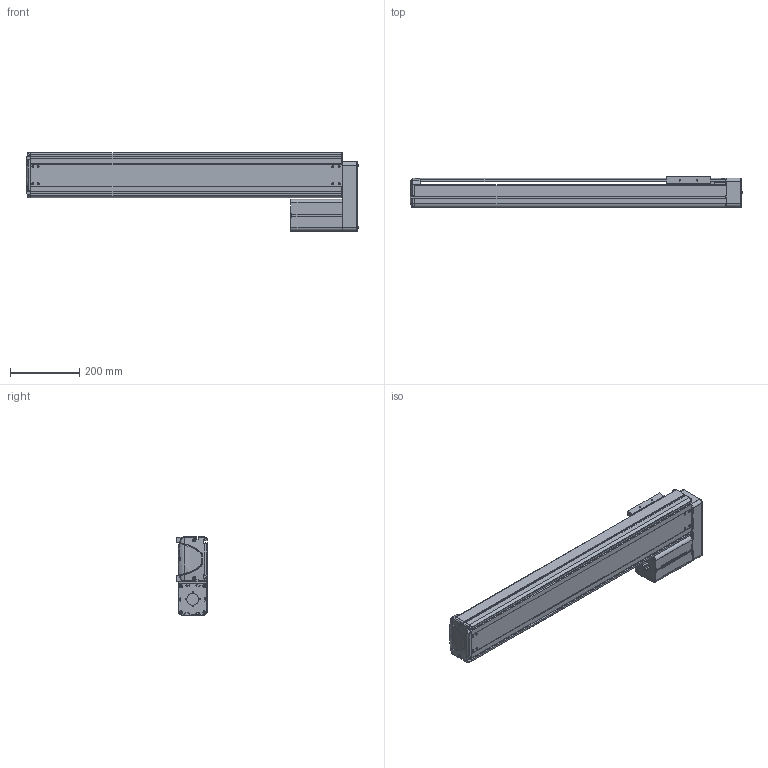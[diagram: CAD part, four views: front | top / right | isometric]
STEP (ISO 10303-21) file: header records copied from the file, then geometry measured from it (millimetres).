
FILE_DESCRIPTION((''),'2;1');
FILE_NAME('BE30E-UL-M_N-70_IGS_PRT','2017-06-17T',(' '),(''),'PRO/ENGINEER BY PARAMETRIC TECHNOLOGY CORPORATION, 2015030','PRO/ENGINEER BY PARAMETRIC TECHNOLOGY CORPORATION, 2015030','');
FILE_SCHEMA(('CONFIG_CONTROL_DESIGN'));
Products named in the file (1): BE30E-UL-M_N-70_IGS_PRT
Bounding box: 961.9 x 89.8 x 227 mm (x, y, z)
Volume: 3225647.9 mm3; surface area: 1404271.5 mm2
Topology: 2 solids, 120 shells, 2010 faces, 5402 edges, 3510 vertices
Faces by surface type: plane 986, cylinder 831, cone 103, torus 38, bspline 28, sphere 24
Entity records: 64934 total; most frequent: CARTESIAN_POINT 13707, DIRECTION 10833, ORIENTED_EDGE 10283, EDGE_CURVE 5364, AXIS2_PLACEMENT_3D 3815, VERTEX_POINT 3510, VECTOR 3203, LINE 3203
